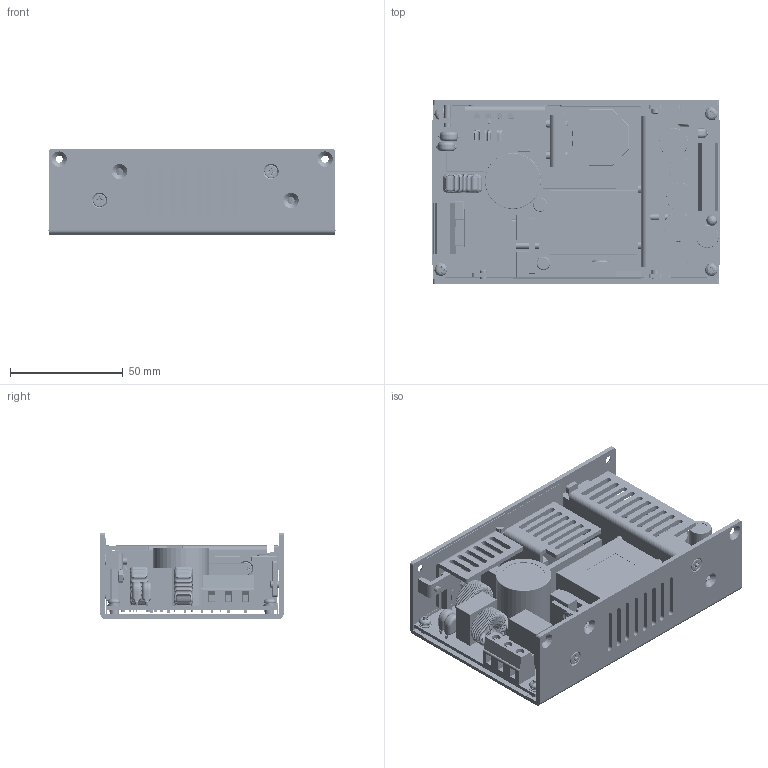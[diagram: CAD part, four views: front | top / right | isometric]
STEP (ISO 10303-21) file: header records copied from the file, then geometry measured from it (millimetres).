
FILE_DESCRIPTION(/* description */ (''),/* implementation_level */ '2;1');
FILE_NAME(/* name */ 'D:\Inventor\3D Files\200508\AQF120U B TYPE.stp',/* time_stamp */ '2020-04-23T16:18:52+08:00',/* author */ ('peter'),/* organization */ (''),/* preprocessor_version */ 'ST-DEVELOPER v15.2',/* originating_system */ 'Autodesk Inventor 2014',/* authorisation */ '');
FILE_SCHEMA (('AUTOMOTIVE_DESIGN { 1 0 10303 214 3 1 1 }'));
Products named in the file (41): BOT CASE; M3 - 4mm; M3 - 2mm; PCB; X3 HEATSINK; INSULATOR TO-220; I HEATSINK; SCREW PH M3_12 mm; X2 HEATSINK; SCREW PH M3_10 mm; X1 HEATSINK; TO-220FP; TO-220FP_1; SCREW CH_W  M3_8mm; BD1; SCREW PH M3_8mm; M3; VR; LED; L1; L1_1; Y -- C; Y -- C_1; Y -- C_2; Y -- C_3; Y -- C_4; LABEL - 12S; DT-128-01; INLET 3P; INLET 4P; PCB - B TYPE; MYLAR - CASE 1; P100 _ 50 X 35 mm; SCREW PH M3_6mm; THREADED CLIP Max; SCREW CH_W  M3_6mm; AQF120U B TYPE
Bounding box: 128 x 81.4 x 38.1 mm (x, y, z)
Volume: 158773.3 mm3; surface area: 152744.7 mm2
Topology: 76 solids, 250 shells, 8069 faces, 16055 edges, 8327 vertices
Faces by surface type: cylinder 3002, torus 2898, plane 1764, bspline 260, cone 128, sphere 17
Full cylindrical faces by diameter (mm): 0.45 x3, 0.5 x1, 0.6 x16, 1.85 x2, 2.459 x23, 3 x14, 3.1 x6, 3.2 x22, 3.5 x7, 3.8 x7, 4 x11, 4.1 x11, 4.219 x1, 4.7 x1, 5.8 x14, 6 x1, 6.129 x1, 6.353 x1, 8.825 x1, 8.853 x1, 9.476 x1, 10.037 x1, 10.297 x1, 12.809 x2, 12.995 x1, 19.003 x1, 24.791 x1
Entity records: 202285 total; most frequent: CARTESIAN_POINT 51334, DIRECTION 34348, ORIENTED_EDGE 30702, AXIS2_PLACEMENT_3D 15147, EDGE_CURVE 13954, EDGE_LOOP 7768, ADVANCED_FACE 7310, FACE_OUTER_BOUND 7247
